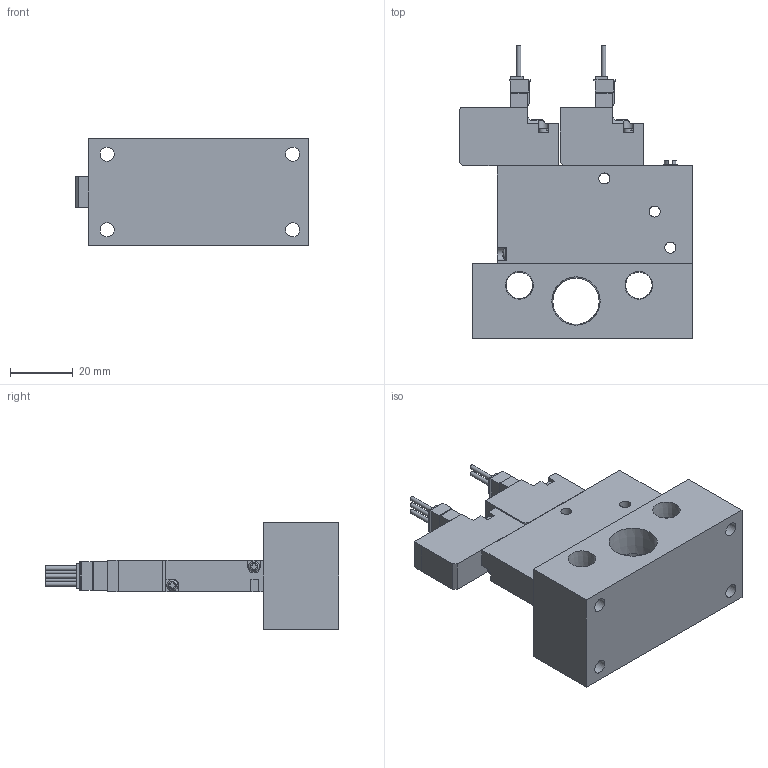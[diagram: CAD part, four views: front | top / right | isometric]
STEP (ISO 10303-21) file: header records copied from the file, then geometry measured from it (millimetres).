
FILE_DESCRIPTION(('STEP AP203'),'1');
FILE_NAME('BMPV42MZZ5W101.stp','2025-04-30T01:16:55',(' '),(' '),'Spatial InterOp 3D',' ',' ');
FILE_SCHEMA(('CONFIG_CONTROL_DESIGN'));
Length unit declared in the file: millimetre
Products named in the file (5): BMPV42MZZ5W101; VACUUM VALVE FUNCTION MPV42-W; VACUUM VALVE FUNCTION MPV42-A; UNIT-MPV42; MPV42-M10R-1
Assembly tree (4 placements, depth 2):
  BMPV42MZZ5W101
    VACUUM VALVE FUNCTION MPV42-W
    VACUUM VALVE FUNCTION MPV42-A
    UNIT-MPV42
    MPV42-M10R-1
Bounding box: 74 x 93.45 x 34 mm (x, y, z)
Volume: 75001.9 mm3; surface area: 24908.8 mm2
Topology: 4 solids, 4 shells, 283 faces, 760 edges, 506 vertices
Faces by surface type: plane 222, cylinder 48, cone 9, sphere 2, torus 2
Full cylindrical faces by diameter (mm): 1.4 x5, 1.8 x1, 2.2 x2, 3 x4, 3.5 x7, 4.134 x1, 4.5 x4, 5 x1, 8.441 x2, 14.744 x1
Entity records: 8815 total; most frequent: CARTESIAN_POINT 1590, DIRECTION 1403, ORIENTED_EDGE 1402, EDGE_CURVE 701, LINE 559, VECTOR 559, VERTEX_POINT 489, AXIS2_PLACEMENT_3D 422
